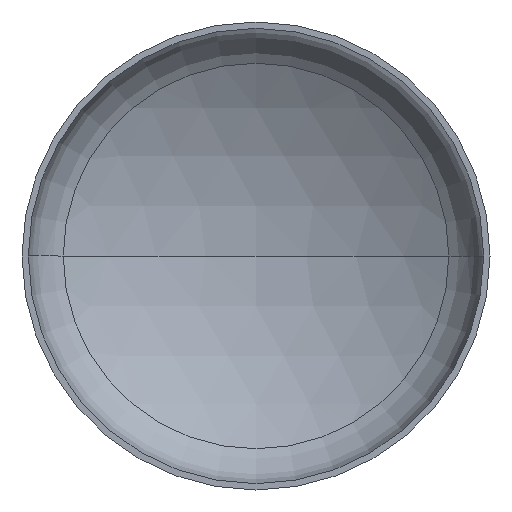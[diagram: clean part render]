
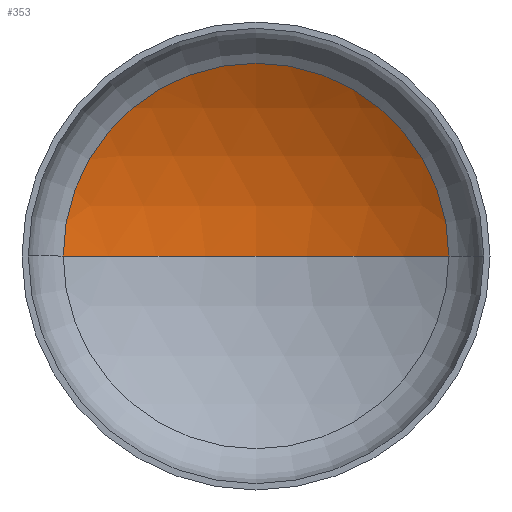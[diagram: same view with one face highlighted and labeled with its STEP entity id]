
A CAD part, front view. The second image highlights one B-rep face of the part: STEP entity #353.
In plain terms, the highlighted spherical face has radius 1120 mm.
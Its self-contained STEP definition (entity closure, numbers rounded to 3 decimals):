
#1 = AXIS2_PLACEMENT_3D ( 'NONE', #358, #86, #69 ) ;
#10 = AXIS2_PLACEMENT_3D ( 'NONE', #182, #129, #280 ) ;
#34 = EDGE_LOOP ( 'NONE', ( #408, #196, #211 ) ) ;
#69 = DIRECTION ( 'NONE',  ( -1., 0., 0. ) ) ;
#76 = VERTEX_POINT ( 'NONE', #296 ) ;
#86 = DIRECTION ( 'NONE',  ( 0., 0., -1. ) ) ;
#94 = VERTEX_POINT ( 'NONE', #199 ) ;
#98 = SPHERICAL_SURFACE ( 'NONE', #1, 1120. ) ;
#129 = DIRECTION ( 'NONE',  ( 0., -1., 0. ) ) ;
#141 = DIRECTION ( 'NONE',  ( 0., 0., -1. ) ) ;
#182 = CARTESIAN_POINT ( 'NONE',  ( 0., 244.307, 0. ) ) ;
#190 = CIRCLE ( 'NONE', #288, 1120. ) ;
#196 = ORIENTED_EDGE ( 'NONE', *, *, #373, .T. ) ;
#199 = CARTESIAN_POINT ( 'NONE',  ( 0., 404.198, 0. ) ) ;
#211 = ORIENTED_EDGE ( 'NONE', *, *, #333, .T. ) ;
#220 = CARTESIAN_POINT ( 'NONE',  ( 0., -715.802, 0. ) ) ;
#244 = DIRECTION ( 'NONE',  ( 1., 0., 0. ) ) ;
#262 = DIRECTION ( 'NONE',  ( -1., 0., 0. ) ) ;
#270 = CIRCLE ( 'NONE', #10, 576.707 ) ;
#280 = DIRECTION ( 'NONE',  ( 1., 0., 0. ) ) ;
#288 = AXIS2_PLACEMENT_3D ( 'NONE', #220, #388, #244 ) ;
#296 = CARTESIAN_POINT ( 'NONE',  ( -576.707, 244.307, 0. ) ) ;
#315 = CARTESIAN_POINT ( 'NONE',  ( 0., -715.802, 0. ) ) ;
#331 = AXIS2_PLACEMENT_3D ( 'NONE', #315, #141, #262 ) ;
#332 = CIRCLE ( 'NONE', #331, 1120. ) ;
#333 = EDGE_CURVE ( 'NONE', #396, #76, #270, .T. ) ;
#353 = ADVANCED_FACE ( 'NONE', ( #394 ), #98, .F. ) ;
#358 = CARTESIAN_POINT ( 'NONE',  ( 0., -715.802, 0. ) ) ;
#369 = EDGE_CURVE ( 'NONE', #94, #76, #190, .T. ) ;
#373 = EDGE_CURVE ( 'NONE', #94, #396, #332, .T. ) ;
#388 = DIRECTION ( 'NONE',  ( 0., 0., 1. ) ) ;
#394 = FACE_OUTER_BOUND ( 'NONE', #34, .T. ) ;
#396 = VERTEX_POINT ( 'NONE', #406 ) ;
#406 = CARTESIAN_POINT ( 'NONE',  ( 576.707, 244.307, 0. ) ) ;
#408 = ORIENTED_EDGE ( 'NONE', *, *, #369, .F. ) ;
